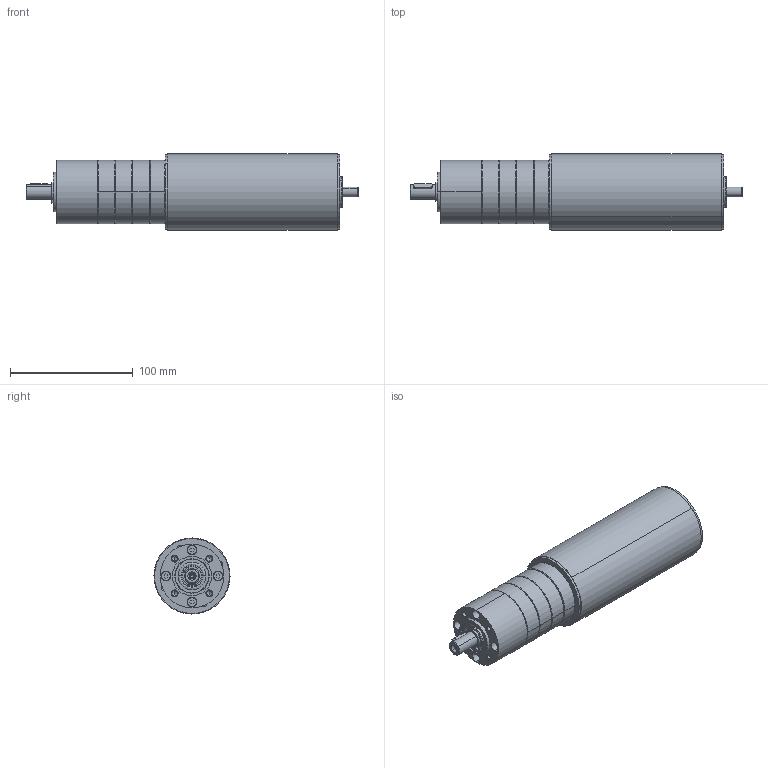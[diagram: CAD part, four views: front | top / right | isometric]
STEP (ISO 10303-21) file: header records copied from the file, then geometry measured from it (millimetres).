
FILE_DESCRIPTION (( 'STEP AP214' ), '1' );
FILE_NAME ('1.25.058-PM52 3 etages.STEP', '2016-01-26T15:54:36', ( '' ), ( '' ), 'SwSTEP 2.0', 'SolidWorks 2014', '' );
FILE_SCHEMA (( 'AUTOMOTIVE_DESIGN' ));
Length unit declared in the file: millimetre
Products named in the file (17): 8006231_LAGERFLANSCH_2; 8006230_ZAHNKRANZ_Z46_2; 8006405_DICHTRING_2; 1.25.058-PM52 3 etages; 1.25.058.4XX_Part; FLANSCH_1210976_1; PM52 pour EC45Flat-70W_3 etages; Coté moteur^PM52 pour EC45Flat-70W; Coté sortie^PM52 pour EC45Flat-70W; SCHRAUBE_1241978_6; 4X4X16_D6885A_2; D471_12X1_5_2; 8102168_ABTRIEB_LK1_KPL_2; GK2152_POS31_2_LAGERBOLZEN_2; 8101171_ABTRIEB_ROHTEIL_AF0_2; DIN998_PS_12X18X1_2; D625-6001-2RS_2
Assembly tree (28 placements, depth 5):
  1.25.058-PM52 3 etages
    PM52 pour EC45Flat-70W_3 etages
      8006405_DICHTRING_2  x2
      8006230_ZAHNKRANZ_Z46_2  x3
      Coté sortie^PM52 pour EC45Flat-70W
        8006231_LAGERFLANSCH_2
        D625-6001-2RS_2  x2
        DIN998_PS_12X18X1_2  x2
        8102168_ABTRIEB_LK1_KPL_2
          8101171_ABTRIEB_ROHTEIL_AF0_2
          GK2152_POS31_2_LAGERBOLZEN_2  x3
        D471_12X1_5_2
        4X4X16_D6885A_2
        8006405_DICHTRING_2
        SCHRAUBE_1241978_6  x4
      Coté moteur^PM52 pour EC45Flat-70W
        8006405_DICHTRING_2
    FLANSCH_1210976_1
    1.25.058.4XX_Part
Bounding box: 270.4 x 62 x 62 mm (x, y, z)
Volume: 478624.3 mm3; surface area: 118188 mm2
Topology: 21 solids, 43 shells, 1328 faces, 3456 edges, 2207 vertices
Faces by surface type: cylinder 635, plane 420, cone 221, bspline 52
Entity records: 25851 total; most frequent: CARTESIAN_POINT 4928, DIRECTION 4146, ORIENTED_EDGE 3540, EDGE_CURVE 1790, AXIS2_PLACEMENT_3D 1647, VERTEX_POINT 1145, CIRCLE 902, EDGE_LOOP 871
